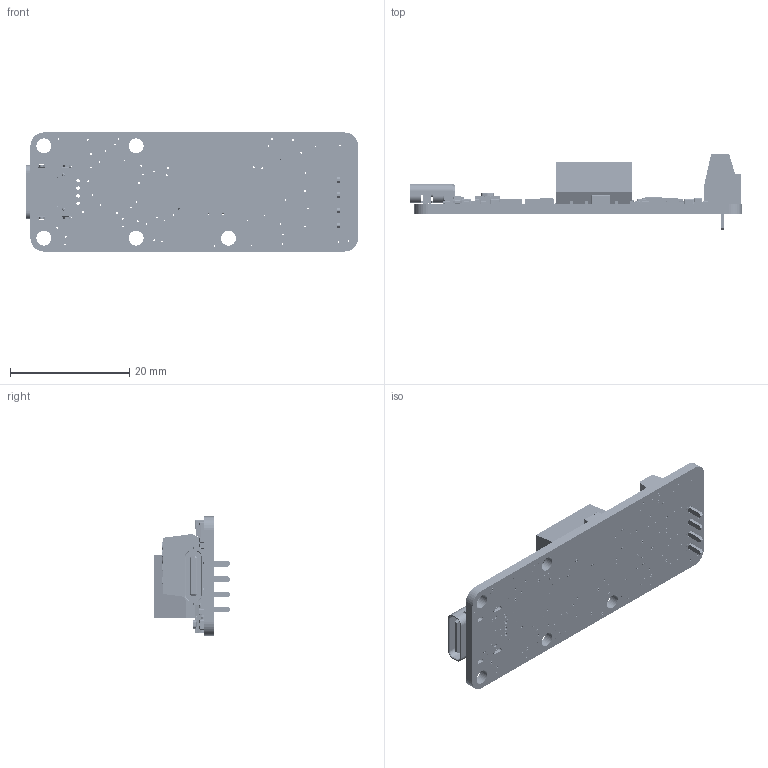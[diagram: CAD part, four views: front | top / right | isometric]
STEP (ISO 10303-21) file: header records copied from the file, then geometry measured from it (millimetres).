
FILE_DESCRIPTION (( 'STEP AP214' ), '1' );
FILE_NAME ('PT100M1C.STEP', '2025-05-30T12:28:30', ( '' ), ( '' ), 'SwSTEP 2.0', 'SolidWorks 2008', '' );
FILE_SCHEMA (( 'AUTOMOTIVE_DESIGN' ));
Length unit declared in the file: millimetre
Products named in the file (41): R20; C26; IO1; IC1; L1; R11; R1; R2; R4; R9; R10; PCB; Alim1; PVSS; R12; R13; R18; R19; AD2; FLASH1; P2; C20; C14; C16; C18; C19; C2; C27; c15; YLED; SW1; T3; R27; USB1; REG1; PT100M1C; U1; R23; REG2; iSENSE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
Assembly tree (69 placements, depth 2):
  PVSS
  PT100M1C
    SW1
    R1
    R12
    IO1
    R9  x4
    C14  x11
    R19  x6
    C20
    REG2
    R18  x2
    C19
    U1
    C27  x2
    R23  x2
    C18  x3
    R27  x4
    iSENSE
    C16
    T3
    IC1
    PCB
    FLASH1
    AD2  x2
    R10
    L1
    R20
    T1
    REG1
    C26  x4
    USB1
    YLED
    R2
    R13
    c15
    R11
    Alim1
    C2
    R4
    P2
Bounding box: 55.75 x 12.9 x 20 mm (x, y, z)
Volume: 3357.7 mm3; surface area: 5128.8 mm2
Topology: 76 solids, 76 shells, 9714 faces, 25381 edges, 16383 vertices
Faces by surface type: plane 6081, cylinder 2208, bspline 1174, sphere 232, cone 12, torus 7
Entity records: 369813 total; most frequent: CARTESIAN_POINT 101006, ORIENTED_EDGE 41380, DIRECTION 35982, EDGE_CURVE 20690, LINE 15218, VECTOR 15218, VERTEX_POINT 13640, AXIS2_PLACEMENT_3D 10382
